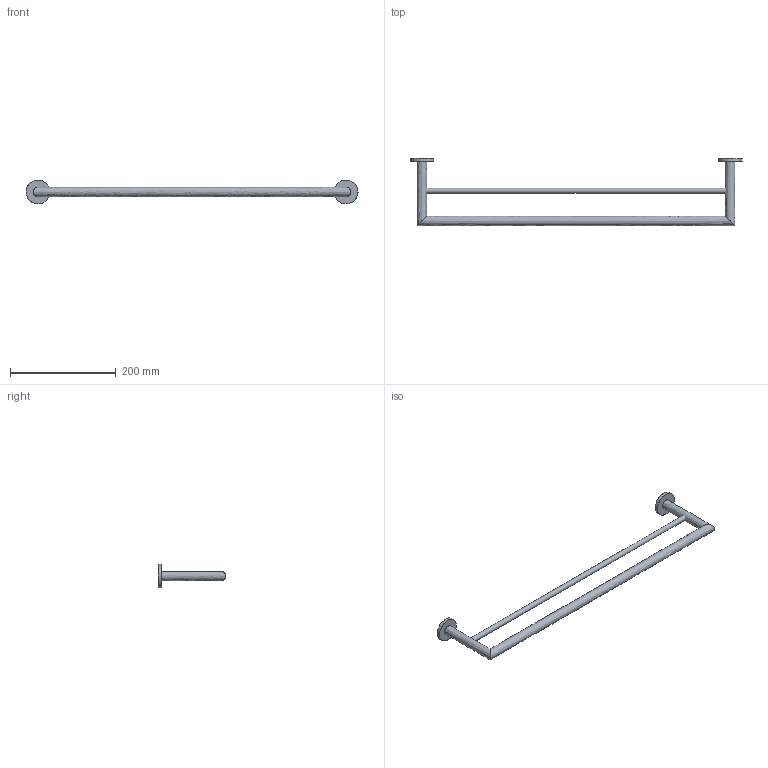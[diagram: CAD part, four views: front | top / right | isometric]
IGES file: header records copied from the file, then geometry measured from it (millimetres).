
Global section: file name: /Users/f/Desktop/I'/AE217.igs; native system: Rhinoceros ( Jul 22 2010 ); preprocessor: Trout Lake IGES 012 Jul 22 2010; date: 100727.154346; units: millimetre
Bounding box: 627 x 127.5 x 45 mm (x, y, z)
Surface area: 72690 mm2 (no closed solid volume)
Topology: 0 solids, 0 shells, 14 faces, 213 edges, 210 vertices
Faces by surface type: bspline 14
